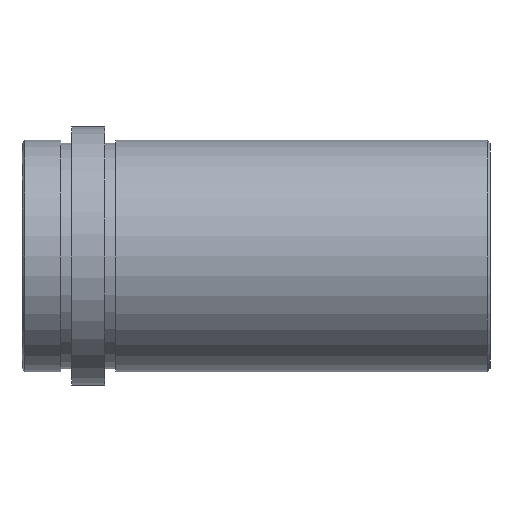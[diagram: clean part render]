
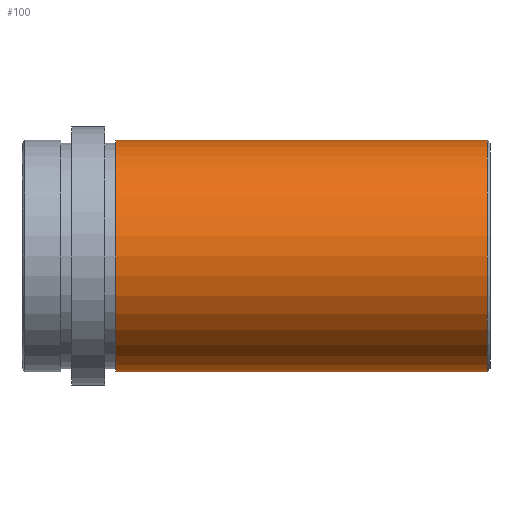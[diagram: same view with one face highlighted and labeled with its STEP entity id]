
A CAD part, front view. The second image highlights one B-rep face of the part: STEP entity #100.
In plain terms, the highlighted face is a revolution surface.
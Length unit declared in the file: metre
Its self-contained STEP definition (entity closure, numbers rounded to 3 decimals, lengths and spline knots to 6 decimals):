
#100 = ADVANCED_FACE( '', ( #157 ), #158, .F. );
#157 = FACE_OUTER_BOUND( '', #250, .T. );
#158 = SURFACE_OF_REVOLUTION( '', #251, #252 );
#250 = EDGE_LOOP( '', ( #419, #420, #421, #422 ) );
#251 = B_SPLINE_CURVE_WITH_KNOTS( '', 1, ( #423, #424 ), .UNSPECIFIED., .F., .F., ( 2, 2 ), ( -10000., 10000. ), .UNSPECIFIED. );
#252 = AXIS1_PLACEMENT( '', #425, #426 );
#419 = ORIENTED_EDGE( '', *, *, #492, .T. );
#420 = ORIENTED_EDGE( '', *, *, #490, .T. );
#421 = ORIENTED_EDGE( '', *, *, #445, .F. );
#422 = ORIENTED_EDGE( '', *, *, #489, .T. );
#423 = CARTESIAN_POINT( '', ( 10000.0845, 0., 0.021 ) );
#424 = CARTESIAN_POINT( '', ( -9999.9155, 0., 0.021 ) );
#425 = CARTESIAN_POINT( '', ( 0., 0., 0. ) );
#426 = DIRECTION( '', ( 1., 0., 0. ) );
#445 = EDGE_CURVE( '', #499, #500, #501, .T. );
#489 = EDGE_CURVE( '', #499, #571, #572, .F. );
#490 = EDGE_CURVE( '', #573, #500, #574, .T. );
#492 = EDGE_CURVE( '', #571, #573, #576, .T. );
#499 = VERTEX_POINT( '', #583 );
#500 = VERTEX_POINT( '', #584 );
#501 = CIRCLE( '', #585, 0.021 );
#571 = VERTEX_POINT( '', #671 );
#572 = LINE( '', #672, #673 );
#573 = VERTEX_POINT( '', #674 );
#574 = LINE( '', #675, #676 );
#576 = CIRCLE( '', #678, 0.021 );
#583 = CARTESIAN_POINT( '', ( 0.017, 0., -0.021 ) );
#584 = CARTESIAN_POINT( '', ( 0.017, 0., 0.021 ) );
#585 = AXIS2_PLACEMENT_3D( '', #689, #690, #691 );
#671 = CARTESIAN_POINT( '', ( 0.0845, 0., -0.021 ) );
#672 = CARTESIAN_POINT( '', ( 0.0845, 0., -0.021 ) );
#673 = VECTOR( '', #789, 1. );
#674 = CARTESIAN_POINT( '', ( 0.0845, 0., 0.021 ) );
#675 = CARTESIAN_POINT( '', ( 0.0845, 0., 0.021 ) );
#676 = VECTOR( '', #790, 1. );
#678 = AXIS2_PLACEMENT_3D( '', #794, #795, #796 );
#689 = CARTESIAN_POINT( '', ( 0.017, 0., 0. ) );
#690 = DIRECTION( '', ( -1., 0., 0. ) );
#691 = DIRECTION( '', ( 0., 0., 1. ) );
#789 = DIRECTION( '', ( -1., 0., 0. ) );
#790 = DIRECTION( '', ( -1., 0., 0. ) );
#794 = CARTESIAN_POINT( '', ( 0.0845, 0., 0. ) );
#795 = DIRECTION( '', ( -1., 0., 0. ) );
#796 = DIRECTION( '', ( 0., 0., 1. ) );
